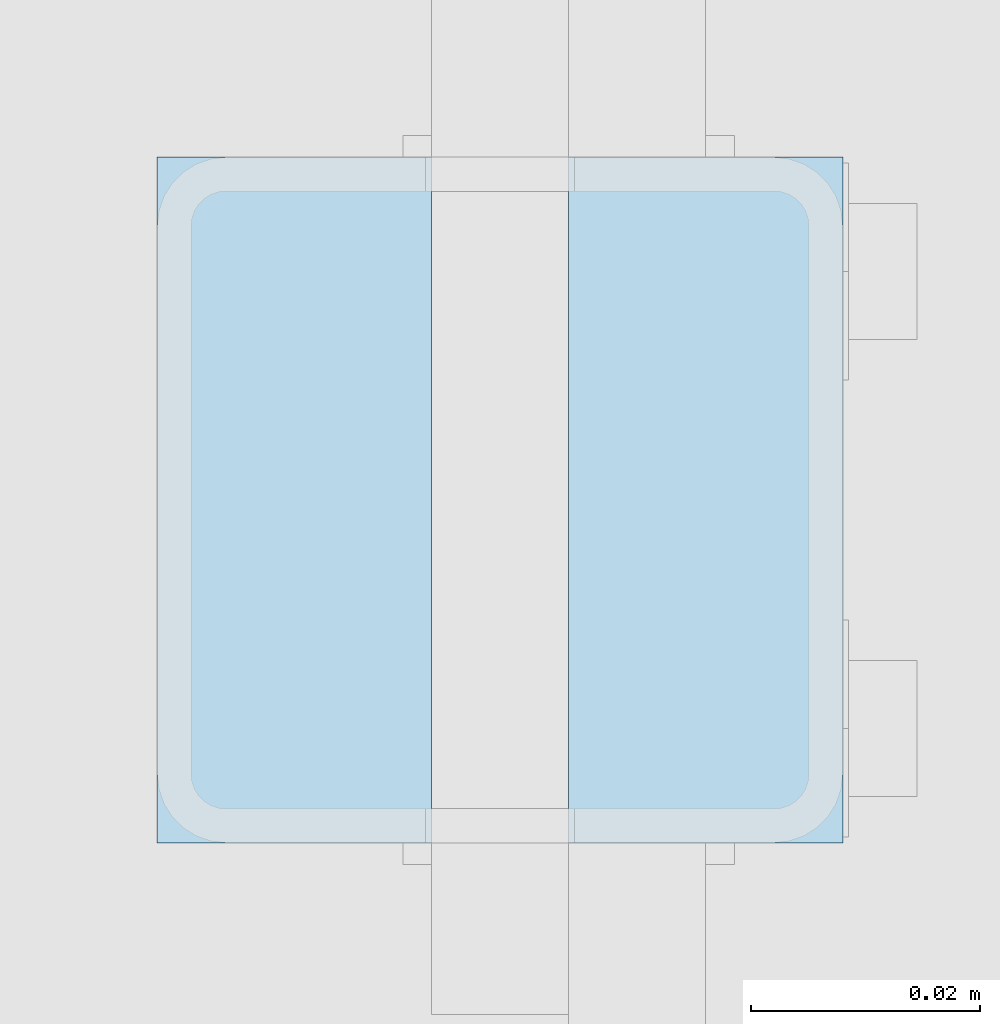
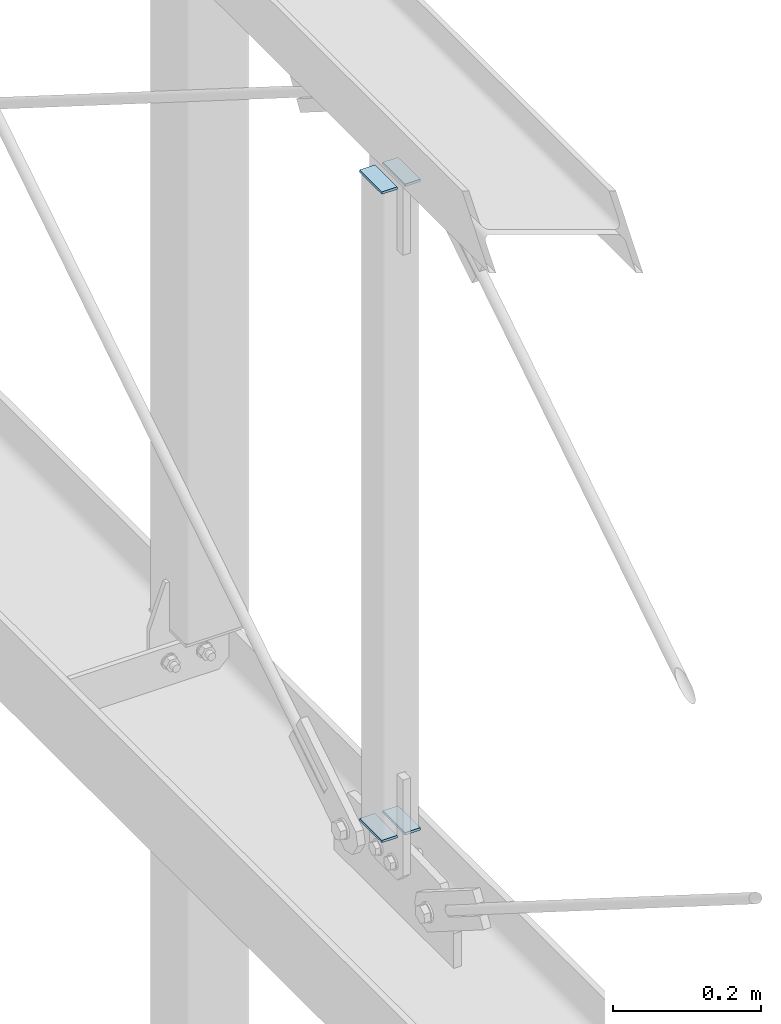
# One storey, part 211 of 271: 4 plates, 1 element without a shape of its own.
"""IFC2X3 building model written with IfcOpenShell, lengths in millimetres."""

from ifc_helpers import new_model, si_unit, frame, origin_with_axes, place, context, subcontext, project, spatial, polyline, outline, extrude, material, type_object, element, aggregate, save


model = new_model("IFC2X3")

# Units and contexts
model_context = context("Model", 3, precision=1e-05, world=origin_with_axes())
body_context = subcontext(model_context, "Body", "Model", "MODEL_VIEW")
ifc_project = project(units=[si_unit("LENGTHUNIT", "METRE", prefix="MILLI"), si_unit("AREAUNIT", "SQUARE_METRE"), si_unit("VOLUMEUNIT", "CUBIC_METRE"), si_unit("MASSUNIT", "GRAM", prefix="KILO"), si_unit("TIMEUNIT", "SECOND"), si_unit("PLANEANGLEUNIT", "RADIAN"), si_unit("SOLIDANGLEUNIT", "STERADIAN"), si_unit("THERMODYNAMICTEMPERATUREUNIT", "DEGREE_CELSIUS"), si_unit("LUMINOUSINTENSITYUNIT", "LUMEN")], contexts=[model_context])

# Site, building, storey
site_placement = place(None, origin_with_axes())
site = spatial("IfcSite", under=ifc_project, at=site_placement, Name="Undefined", CompositionType="ELEMENT")
building_placement = place(site_placement, origin_with_axes())
building = spatial("IfcBuilding", under=site, at=building_placement, Name="Undefined", CompositionType="ELEMENT")
storey_placement = place(building_placement, origin_with_axes())
storey = spatial("IfcBuildingStorey", under=building, at=storey_placement, Name="Undefined", CompositionType="ELEMENT", Elevation=0.0)

# Assembly, plates
assembly_placement = place(storey_placement, origin_with_axes())
assembly = element("IfcElementAssembly", 1, at=assembly_placement, inside=storey, AssemblyPlace="NOTDEFINED", PredefinedType="RIGID_FRAME")
ifc_material = material(Name="STEEL/S355JR")
plate_type = type_object("IfcPlateType", Name="BL4*24", PredefinedType="NOTDEFINED")
plate_1_placement = place(assembly_placement, frame((12567.751374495, 2209.19355050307, 19859.4686765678), z_axis=(0.0, 0.0, -1.0), x_axis=(1.0, 0.0, 0.0)))
plate_1 = element("IfcPlate", 2, at=plate_1_placement, type_object=plate_type, material=ifc_material, Name="BLACHA", ObjectType="BL4*24", context=body_context, shape_type="SweptSolid", body=[
    extrude(outline(polyline([(0.0, 0.0), (24.0, 0.0), (24.0, 60.0), (0.0, 60.0), (0.0, 0.0)])), frame((0.0, 0.0, -2.0), z_axis=(0.0, 0.0, 1.0), x_axis=(1.0, 0.0, 0.0)), (0.0, 0.0, 1.0), 4.0),
])
plate_2_placement = place(assembly_placement, frame((12603.7513741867, 2209.19355050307, 19859.4686765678), z_axis=(0.0, 0.0, -1.0), x_axis=(1.0, 0.0, 0.0)))
plate_2 = element("IfcPlate", 3, at=plate_2_placement, type_object=plate_type, material=ifc_material, Name="BLACHA", ObjectType="BL4*24", context=body_context, shape_type="SweptSolid", body=[
    extrude(outline(polyline([(0.0, 0.0), (24.0, 0.0), (24.0, 60.0), (0.0, 60.0), (0.0, 0.0)])), frame((0.0, 0.0, -2.0), z_axis=(0.0, 0.0, 1.0), x_axis=(1.0, 0.0, 0.0)), (0.0, 0.0, 1.0), 4.0),
])
plate_3_placement = place(assembly_placement, frame((12567.751374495, 2149.19355050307, 18789.649999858), z_axis=(0.0, 0.0, 1.0), x_axis=(1.0, 0.0, 0.0)))
plate_3 = element("IfcPlate", 4, at=plate_3_placement, type_object=plate_type, material=ifc_material, Name="BLACHA", ObjectType="BL4*24", context=body_context, shape_type="SweptSolid", body=[
    extrude(outline(polyline([(0.0, 0.0), (24.0, 0.0), (24.0, 60.0), (0.0, 60.0), (0.0, 0.0)])), frame((0.0, 0.0, -2.0), z_axis=(0.0, 0.0, 1.0), x_axis=(1.0, 0.0, 0.0)), (0.0, 0.0, 1.0), 4.0),
])
plate_4_placement = place(assembly_placement, frame((12603.7513741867, 2149.19355050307, 18789.649999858), z_axis=(0.0, 0.0, 1.0), x_axis=(1.0, 0.0, 0.0)))
plate_4 = element("IfcPlate", 5, at=plate_4_placement, type_object=plate_type, material=ifc_material, Name="BLACHA", ObjectType="BL4*24", context=body_context, shape_type="SweptSolid", body=[
    extrude(outline(polyline([(0.0, 0.0), (24.0, 0.0), (24.0, 60.0), (0.0, 60.0), (0.0, 0.0)])), frame((0.0, 0.0, -2.0), z_axis=(0.0, 0.0, 1.0), x_axis=(1.0, 0.0, 0.0)), (0.0, 0.0, 1.0), 4.0),
])
aggregate(assembly, [plate_1, plate_2, plate_3, plate_4])

save(model, "model.ifc")
